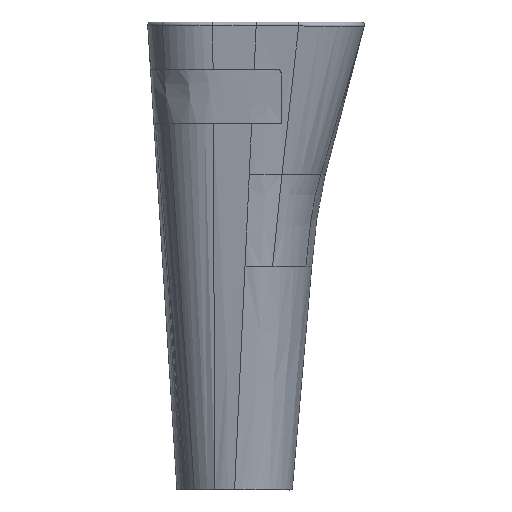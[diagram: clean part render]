
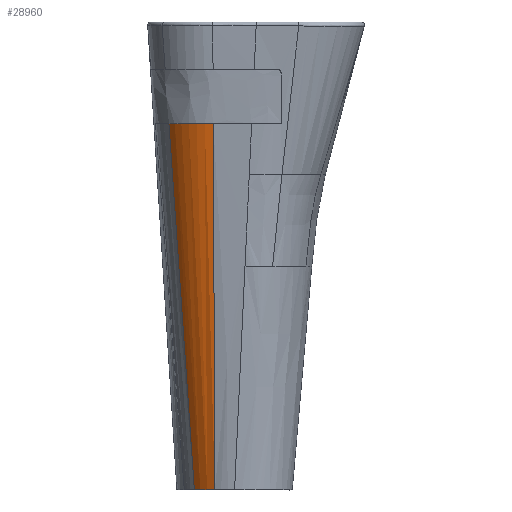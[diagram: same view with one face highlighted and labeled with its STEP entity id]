
A CAD part, left-side view. The second image highlights one B-rep face of the part: STEP entity #28960.
In plain terms, the highlighted free-form (B-spline) face has degree [5, 1] with [6, 2] control points.
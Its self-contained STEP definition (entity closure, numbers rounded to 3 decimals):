
#28906=CARTESIAN_POINT('Control Point',(-205.058,173.628,0.)) ;
#28907=CARTESIAN_POINT('Control Point',(-87.272,113.989,-860.)) ;
#28908=CARTESIAN_POINT('Control Point',(-221.933,160.1,0.)) ;
#28909=CARTESIAN_POINT('Control Point',(-94.012,107.861,-860.)) ;
#28910=CARTESIAN_POINT('Control Point',(-235.672,142.841,0.)) ;
#28911=CARTESIAN_POINT('Control Point',(-100.133,100.894,-860.)) ;
#28912=CARTESIAN_POINT('Control Point',(-245.169,122.878,0.)) ;
#28913=CARTESIAN_POINT('Control Point',(-105.432,93.209,-860.)) ;
#28914=CARTESIAN_POINT('Control Point',(-250.,101.535,0.)) ;
#28915=CARTESIAN_POINT('Control Point',(-109.809,84.959,-860.)) ;
#28916=CARTESIAN_POINT('Control Point',(-250.,80.,0.)) ;
#28917=CARTESIAN_POINT('Control Point',(-113.191,76.268,-860.)) ;
#28919=CARTESIAN_POINT('Control Point',(-220.252,79.189,-187.)) ;
#28920=CARTESIAN_POINT('Control Point',(-184.565,78.215,-411.333)) ;
#28921=CARTESIAN_POINT('Control Point',(-148.878,77.242,-635.667)) ;
#28922=CARTESIAN_POINT('Control Point',(-113.191,76.268,-860.)) ;
#28923=CARTESIAN_POINT('Vertex',(-220.252,79.189,-187.)) ;
#28925=CARTESIAN_POINT('Vertex',(-113.191,76.268,-860.)) ;
#28929=CARTESIAN_POINT('Control Point',(-113.191,76.268,-860.)) ;
#28930=CARTESIAN_POINT('Control Point',(-109.809,84.959,-860.)) ;
#28931=CARTESIAN_POINT('Control Point',(-105.432,93.209,-860.)) ;
#28932=CARTESIAN_POINT('Control Point',(-100.133,100.894,-860.)) ;
#28933=CARTESIAN_POINT('Control Point',(-94.012,107.861,-860.)) ;
#28934=CARTESIAN_POINT('Control Point',(-87.272,113.989,-860.)) ;
#28935=CARTESIAN_POINT('Vertex',(-87.272,113.989,-860.)) ;
#28939=CARTESIAN_POINT('Control Point',(-87.272,113.989,-860.)) ;
#28940=CARTESIAN_POINT('Control Point',(-117.997,129.546,-635.667)) ;
#28941=CARTESIAN_POINT('Control Point',(-148.722,145.103,-411.333)) ;
#28942=CARTESIAN_POINT('Control Point',(-179.447,160.66,-187.)) ;
#28943=CARTESIAN_POINT('Vertex',(-179.447,160.66,-187.)) ;
#28947=CARTESIAN_POINT('Control Point',(-179.447,160.66,-187.)) ;
#28948=CARTESIAN_POINT('Control Point',(-194.065,148.784,-187.)) ;
#28949=CARTESIAN_POINT('Control Point',(-206.139,133.809,-187.)) ;
#28950=CARTESIAN_POINT('Control Point',(-214.774,116.506,-187.)) ;
#28951=CARTESIAN_POINT('Control Point',(-219.516,97.946,-187.)) ;
#28952=CARTESIAN_POINT('Control Point',(-220.252,79.189,-187.)) ;
#28955=ORIENTED_EDGE('',*,*,#28927,.T.) ;
#28956=ORIENTED_EDGE('',*,*,#28937,.T.) ;
#28957=ORIENTED_EDGE('',*,*,#28945,.T.) ;
#28958=ORIENTED_EDGE('',*,*,#28953,.T.) ;
#28960=ADVANCED_FACE('MASTER',(#28959),#28905,.T.) ;
#28918=B_SPLINE_CURVE_WITH_KNOTS('',3,(#28919,#28920,#28921,#28922),.UNSPECIFIED.,.F.,.U.,(4,4),(0.,681.718),.UNSPECIFIED.) ;
#28928=B_SPLINE_CURVE_WITH_KNOTS('',5,(#28929,#28930,#28931,#28932,#28933,#28934),.UNSPECIFIED.,.F.,.U.,(6,6),(0.,77.798),.UNSPECIFIED.) ;
#28938=B_SPLINE_CURVE_WITH_KNOTS('',3,(#28939,#28940,#28941,#28942),.UNSPECIFIED.,.F.,.U.,(4,4),(-430.847,250.871),.UNSPECIFIED.) ;
#28946=B_SPLINE_CURVE_WITH_KNOTS('',5,(#28947,#28948,#28949,#28950,#28951,#28952),.UNSPECIFIED.,.F.,.U.,(6,6),(0.,77.798),.UNSPECIFIED.) ;
#28905=B_SPLINE_SURFACE_WITH_KNOTS('',5,1,((#28906,#28907),(#28908,#28909),(#28910,#28911),(#28912,#28913),(#28914,#28915),(#28916,#28917)),.UNSPECIFIED.,.F.,.F.,.U.,(6,6),(2,2),(0.,77.798),(0.,871.141),.UNSPECIFIED.) ;
#28927=EDGE_CURVE('',#28924,#28926,#28918,.T.) ;
#28937=EDGE_CURVE('',#28926,#28936,#28928,.T.) ;
#28945=EDGE_CURVE('',#28936,#28944,#28938,.T.) ;
#28953=EDGE_CURVE('',#28944,#28924,#28946,.T.) ;
#28954=EDGE_LOOP('',(#28955,#28956,#28957,#28958)) ;
#28959=FACE_OUTER_BOUND('',#28954,.T.) ;
#28924=VERTEX_POINT('',#28923) ;
#28926=VERTEX_POINT('',#28925) ;
#28936=VERTEX_POINT('',#28935) ;
#28944=VERTEX_POINT('',#28943) ;
